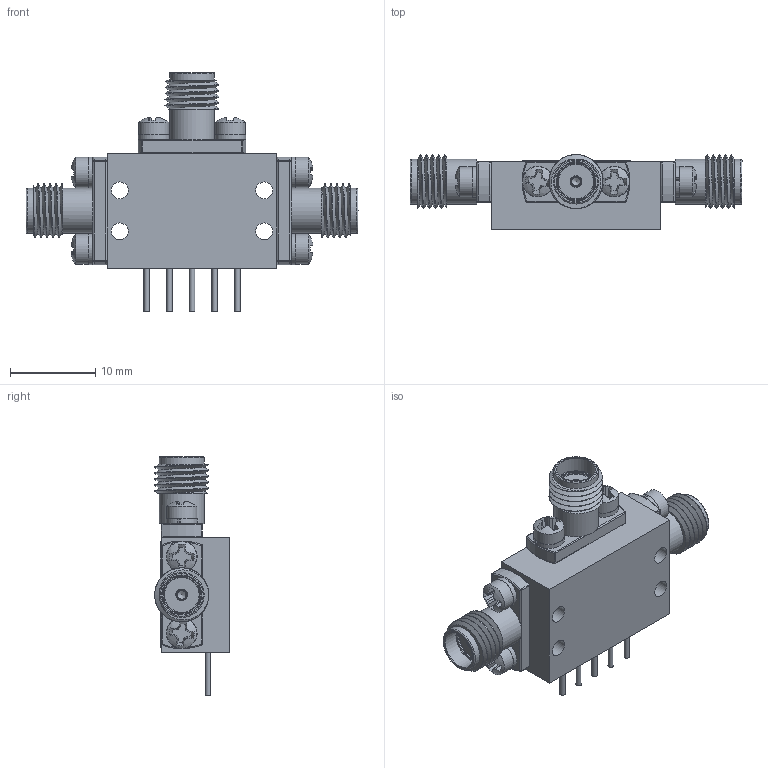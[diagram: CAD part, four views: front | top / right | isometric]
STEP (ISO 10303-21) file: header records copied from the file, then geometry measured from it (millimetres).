
FILE_DESCRIPTION (( 'STEP AP214' ), '1' );
FILE_NAME ('P2T-30M6-70-T-SFF.STEP', '2026-02-05T19:11:49', ( '' ), ( '' ), 'SwSTEP 2.0', 'SolidWorks 2025', '' );
FILE_SCHEMA (( 'AUTOMOTIVE_DESIGN' ));
Length unit declared in the file: inch
Products named in the file (1): P2T-30M6-70-T-SFF
Bounding box: 39.04 x 8.76 x 28.09 mm (x, y, z)
Volume: 2978.7 mm3; surface area: 3559.5 mm2
Topology: 23 solids, 23 shells, 601 faces, 2141 edges, 1735 vertices
Faces by surface type: plane 355, cylinder 105, torus 69, cone 36, sphere 30, bspline 6
Full cylindrical faces by diameter (mm): 0.305 x6, 0.559 x3, 0.635 x5, 1.016 x3, 1.27 x3, 1.994 x4, 2.184 x6, 2.591 x6, 3.302 x3, 3.556 x6, 4.191 x6, 4.597 x3, 5.283 x6
Entity records: 36968 total; most frequent: CARTESIAN_POINT 11127, ORIENTED_EDGE 3936, DIRECTION 3342, EDGE_CURVE 1968, VERTEX_POINT 1715, AXIS2_PLACEMENT_3D 1169, VECTOR 1004, LINE 1004
